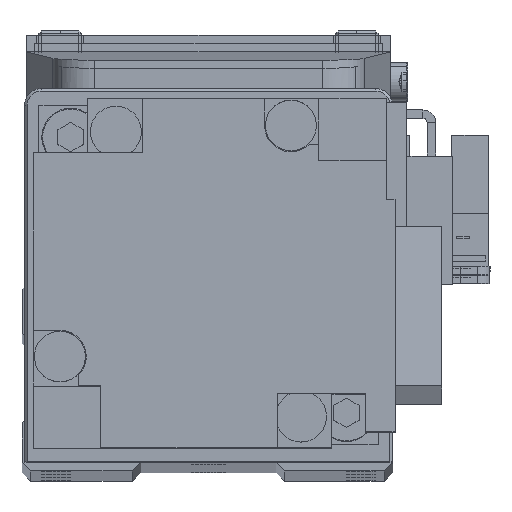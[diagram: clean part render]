
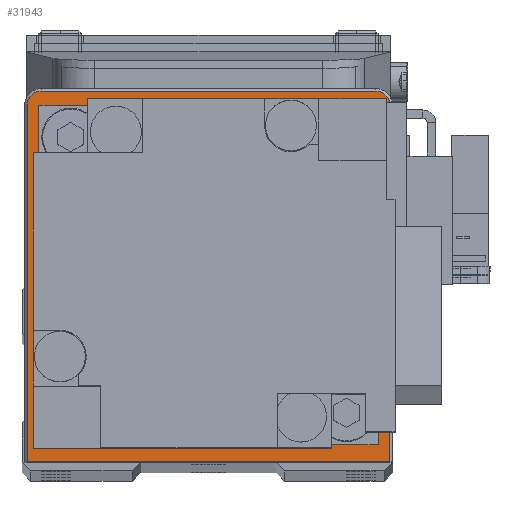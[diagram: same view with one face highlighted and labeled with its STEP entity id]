
A CAD part, top view. The second image highlights one B-rep face of the part: STEP entity #31943.
In plain terms, the highlighted planar face has unit normal (0, 0, 1).
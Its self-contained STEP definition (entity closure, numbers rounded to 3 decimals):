
#340 = VERTEX_POINT ( 'NONE', #25128 ) ;
#950 = CARTESIAN_POINT ( 'NONE',  ( 21.4, -22., 26.5 ) ) ;
#1003 = VERTEX_POINT ( 'NONE', #8092 ) ;
#1455 = DIRECTION ( 'NONE',  ( 1., 0., 0. ) ) ;
#2465 = FACE_BOUND ( 'NONE', #28221, .T. ) ;
#2538 = CARTESIAN_POINT ( 'NONE',  ( 21.4, 20., 26.5 ) ) ;
#3157 = CARTESIAN_POINT ( 'NONE',  ( -10., 0., 26.5 ) ) ;
#4067 = EDGE_LOOP ( 'NONE', ( #19582, #17600, #8555, #30194, #17388, #15895 ) ) ;
#4488 = AXIS2_PLACEMENT_3D ( 'NONE', #21797, #32464, #8523 ) ;
#4693 = LINE ( 'NONE', #15359, #33579 ) ;
#4856 = DIRECTION ( 'NONE',  ( 1., 0., 0. ) ) ;
#5053 = AXIS2_PLACEMENT_3D ( 'NONE', #23771, #34440, #10501 ) ;
#5388 = CARTESIAN_POINT ( 'NONE',  ( 0., 0., 26.5 ) ) ;
#5459 = ORIENTED_EDGE ( 'NONE', *, *, #18078, .F. ) ;
#5913 = VERTEX_POINT ( 'NONE', #950 ) ;
#6663 = CIRCLE ( 'NONE', #26189, 10. ) ;
#6772 = DIRECTION ( 'NONE',  ( 1., 0., 0. ) ) ;
#7139 = CIRCLE ( 'NONE', #26655, 10. ) ;
#8092 = CARTESIAN_POINT ( 'NONE',  ( 19.7, 21.7, 26.5 ) ) ;
#8523 = DIRECTION ( 'NONE',  ( 1., 0., 0. ) ) ;
#8555 = ORIENTED_EDGE ( 'NONE', *, *, #22017, .T. ) ;
#10248 = LINE ( 'NONE', #20895, #16151 ) ;
#10501 = DIRECTION ( 'NONE',  ( 1., 0., 0. ) ) ;
#12673 = EDGE_CURVE ( 'NONE', #5913, #34252, #26466, .T. ) ;
#13119 = PLANE ( 'NONE',  #5053 ) ;
#13196 = DIRECTION ( 'NONE',  ( 0., 1., 0. ) ) ;
#13607 = ORIENTED_EDGE ( 'NONE', *, *, #32514, .F. ) ;
#14393 = CARTESIAN_POINT ( 'NONE',  ( -21.4, -22., 26.5 ) ) ;
#14728 = CARTESIAN_POINT ( 'NONE',  ( -19.7, 20., 26.5 ) ) ;
#15359 = CARTESIAN_POINT ( 'NONE',  ( -19.7, 21.7, 26.5 ) ) ;
#15407 = CARTESIAN_POINT ( 'NONE',  ( -21.4, 20., 26.5 ) ) ;
#15895 = ORIENTED_EDGE ( 'NONE', *, *, #30929, .T. ) ;
#16047 = AXIS2_PLACEMENT_3D ( 'NONE', #14728, #25377, #1455 ) ;
#16049 = DIRECTION ( 'NONE',  ( 0., 0., 1. ) ) ;
#16116 = VERTEX_POINT ( 'NONE', #30650 ) ;
#16151 = VECTOR ( 'NONE', #31564, 1000. ) ;
#17388 = ORIENTED_EDGE ( 'NONE', *, *, #28850, .T. ) ;
#17441 = VERTEX_POINT ( 'NONE', #3157 ) ;
#17600 = ORIENTED_EDGE ( 'NONE', *, *, #12673, .T. ) ;
#18078 = EDGE_CURVE ( 'NONE', #16116, #17441, #7139, .T. ) ;
#18140 = LINE ( 'NONE', #28799, #34118 ) ;
#19547 = CIRCLE ( 'NONE', #4488, 1.7 ) ;
#19582 = ORIENTED_EDGE ( 'NONE', *, *, #34278, .T. ) ;
#20041 = CARTESIAN_POINT ( 'NONE',  ( 0., 0., 26.5 ) ) ;
#20895 = CARTESIAN_POINT ( 'NONE',  ( -21.4, -22., 26.5 ) ) ;
#21797 = CARTESIAN_POINT ( 'NONE',  ( 19.7, 20., 26.5 ) ) ;
#22017 = EDGE_CURVE ( 'NONE', #34252, #1003, #19547, .T. ) ;
#23121 = EDGE_CURVE ( 'NONE', #1003, #340, #4693, .T. ) ;
#23771 = CARTESIAN_POINT ( 'NONE',  ( 0., 0., 26.5 ) ) ;
#25128 = CARTESIAN_POINT ( 'NONE',  ( -19.7, 21.7, 26.5 ) ) ;
#25377 = DIRECTION ( 'NONE',  ( 0., 0., 1. ) ) ;
#26001 = DIRECTION ( 'NONE',  ( -1., 0., 0. ) ) ;
#26189 = AXIS2_PLACEMENT_3D ( 'NONE', #5388, #16049, #26700 ) ;
#26394 = FACE_OUTER_BOUND ( 'NONE', #4067, .T. ) ;
#26466 = LINE ( 'NONE', #2538, #34105 ) ;
#26655 = AXIS2_PLACEMENT_3D ( 'NONE', #20041, #30707, #6772 ) ;
#26700 = DIRECTION ( 'NONE',  ( 1., 0., 0. ) ) ;
#28221 = EDGE_LOOP ( 'NONE', ( #13607, #5459 ) ) ;
#28799 = CARTESIAN_POINT ( 'NONE',  ( -21.7, -22., 26.5 ) ) ;
#28850 = EDGE_CURVE ( 'NONE', #340, #33122, #31113, .T. ) ;
#29971 = VERTEX_POINT ( 'NONE', #14393 ) ;
#30194 = ORIENTED_EDGE ( 'NONE', *, *, #23121, .T. ) ;
#30650 = CARTESIAN_POINT ( 'NONE',  ( 10., 0., 26.5 ) ) ;
#30707 = DIRECTION ( 'NONE',  ( 0., 0., 1. ) ) ;
#30929 = EDGE_CURVE ( 'NONE', #33122, #29971, #10248, .T. ) ;
#31113 = CIRCLE ( 'NONE', #16047, 1.7 ) ;
#31258 = CARTESIAN_POINT ( 'NONE',  ( 21.4, 20., 26.5 ) ) ;
#31564 = DIRECTION ( 'NONE',  ( 0., -1., 0. ) ) ;
#31943 = ADVANCED_FACE ( 'NONE', ( #26394, #2465 ), #13119, .T. ) ;
#32464 = DIRECTION ( 'NONE',  ( 0., 0., 1. ) ) ;
#32514 = EDGE_CURVE ( 'NONE', #17441, #16116, #6663, .T. ) ;
#33122 = VERTEX_POINT ( 'NONE', #15407 ) ;
#33579 = VECTOR ( 'NONE', #26001, 1000. ) ;
#34105 = VECTOR ( 'NONE', #13196, 1000. ) ;
#34118 = VECTOR ( 'NONE', #4856, 1000. ) ;
#34252 = VERTEX_POINT ( 'NONE', #31258 ) ;
#34278 = EDGE_CURVE ( 'NONE', #29971, #5913, #18140, .T. ) ;
#34440 = DIRECTION ( 'NONE',  ( 0., 0., 1. ) ) ;
